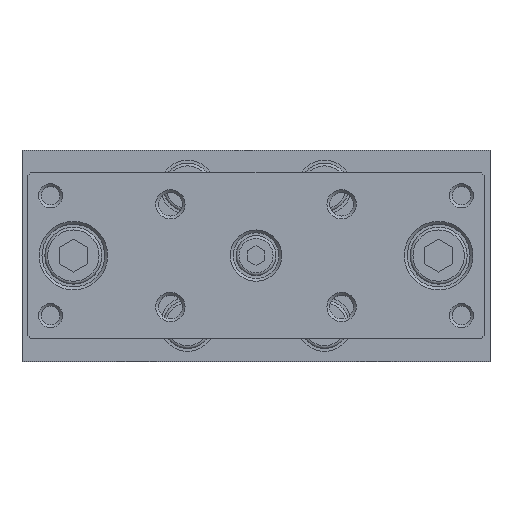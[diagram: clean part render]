
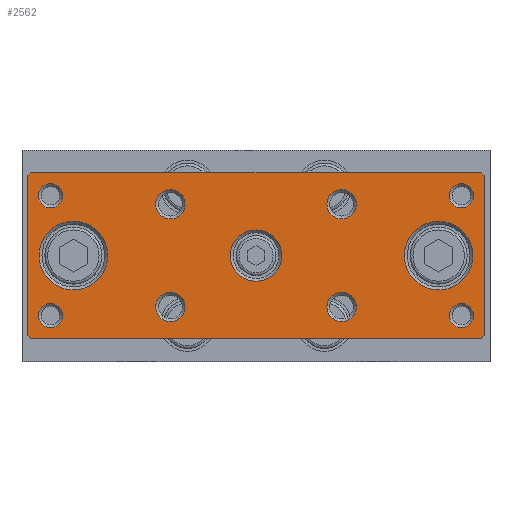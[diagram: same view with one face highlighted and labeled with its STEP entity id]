
A CAD part, top view. The second image highlights one B-rep face of the part: STEP entity #2562.
In plain terms, the highlighted planar face has unit normal (0, 0, 1).
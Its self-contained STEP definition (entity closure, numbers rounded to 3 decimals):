
#2366=CARTESIAN_POINT('',(-12.193,-7.317,129.5));
#2367=VERTEX_POINT('',#2366);
#2368=CARTESIAN_POINT('',(-14.76,-7.317,129.5));
#2369=DIRECTION('',(0.0,0.0,1.0));
#2370=DIRECTION('',(-1.0,0.0,0.0));
#2371=AXIS2_PLACEMENT_3D('',#2368,#2369,#2370);
#2372=CIRCLE('',#2371,2.567);
#2373=EDGE_CURVE('',#2367,#2367,#2372,.T.);
#2378=CARTESIAN_POINT('',(-39.76,1.683,129.5));
#2379=DIRECTION('',(0.0,0.0,1.0));
#2380=DIRECTION('',(1.0,0.0,0.0));
#2381=AXIS2_PLACEMENT_3D('',#2378,#2379,#2380);
#2382=PLANE('',#2381);
#2383=CARTESIAN_POINT('',(-39.76,15.683,129.5));
#2384=VERTEX_POINT('',#2383);
#2385=CARTESIAN_POINT('',(-39.26,16.183,129.5));
#2386=VERTEX_POINT('',#2385);
#2387=CARTESIAN_POINT('',(-39.76,15.683,129.5));
#2388=DIRECTION('',(0.707,0.707,0.0));
#2389=VECTOR('',#2388,0.707);
#2390=LINE('',#2387,#2389);
#2391=EDGE_CURVE('',#2384,#2386,#2390,.T.);
#2392=ORIENTED_EDGE('',*,*,#2391,.F.);
#2393=CARTESIAN_POINT('',(-39.76,-12.317,129.5));
#2394=VERTEX_POINT('',#2393);
#2395=CARTESIAN_POINT('',(-39.76,15.683,129.5));
#2396=DIRECTION('',(0.0,-1.0,0.0));
#2397=VECTOR('',#2396,28.);
#2398=LINE('',#2395,#2397);
#2399=EDGE_CURVE('',#2384,#2394,#2398,.T.);
#2400=ORIENTED_EDGE('',*,*,#2399,.T.);
#2401=CARTESIAN_POINT('',(-39.26,-12.817,129.5));
#2402=VERTEX_POINT('',#2401);
#2403=CARTESIAN_POINT('',(-39.26,-12.817,129.5));
#2404=DIRECTION('',(-0.707,0.707,0.0));
#2405=VECTOR('',#2404,0.707);
#2406=LINE('',#2403,#2405);
#2407=EDGE_CURVE('',#2402,#2394,#2406,.T.);
#2408=ORIENTED_EDGE('',*,*,#2407,.F.);
#2409=CARTESIAN_POINT('',(39.74,-12.817,129.5));
#2410=VERTEX_POINT('',#2409);
#2411=CARTESIAN_POINT('',(-39.26,-12.817,129.5));
#2412=DIRECTION('',(1.0,0.0,0.0));
#2413=VECTOR('',#2412,79.0);
#2414=LINE('',#2411,#2413);
#2415=EDGE_CURVE('',#2402,#2410,#2414,.T.);
#2416=ORIENTED_EDGE('',*,*,#2415,.T.);
#2417=CARTESIAN_POINT('',(40.24,-12.317,129.5));
#2418=VERTEX_POINT('',#2417);
#2419=CARTESIAN_POINT('',(40.24,-12.317,129.5));
#2420=DIRECTION('',(-0.707,-0.707,0.0));
#2421=VECTOR('',#2420,0.707);
#2422=LINE('',#2419,#2421);
#2423=EDGE_CURVE('',#2418,#2410,#2422,.T.);
#2424=ORIENTED_EDGE('',*,*,#2423,.F.);
#2425=CARTESIAN_POINT('',(40.24,15.683,129.5));
#2426=VERTEX_POINT('',#2425);
#2427=CARTESIAN_POINT('',(40.24,-12.317,129.5));
#2428=DIRECTION('',(0.0,1.0,0.0));
#2429=VECTOR('',#2428,28.);
#2430=LINE('',#2427,#2429);
#2431=EDGE_CURVE('',#2418,#2426,#2430,.T.);
#2432=ORIENTED_EDGE('',*,*,#2431,.T.);
#2433=CARTESIAN_POINT('',(39.74,16.183,129.5));
#2434=VERTEX_POINT('',#2433);
#2435=CARTESIAN_POINT('',(39.74,16.183,129.5));
#2436=DIRECTION('',(0.707,-0.707,0.0));
#2437=VECTOR('',#2436,0.707);
#2438=LINE('',#2435,#2437);
#2439=EDGE_CURVE('',#2434,#2426,#2438,.T.);
#2440=ORIENTED_EDGE('',*,*,#2439,.F.);
#2441=CARTESIAN_POINT('',(39.74,16.183,129.5));
#2442=DIRECTION('',(-1.0,0.0,0.0));
#2443=VECTOR('',#2442,79.0);
#2444=LINE('',#2441,#2443);
#2445=EDGE_CURVE('',#2434,#2386,#2444,.T.);
#2446=ORIENTED_EDGE('',*,*,#2445,.T.);
#2447=EDGE_LOOP('',(#2392,#2400,#2408,#2416,#2424,#2432,#2440,#2446));
#2448=FACE_OUTER_BOUND('',#2447,.T.);
#2449=CARTESIAN_POINT('',(17.807,10.683,129.5));
#2450=VERTEX_POINT('',#2449);
#2451=CARTESIAN_POINT('',(15.24,10.683,129.5));
#2452=DIRECTION('',(0.0,0.0,1.0));
#2453=DIRECTION('',(-1.0,0.0,0.0));
#2454=AXIS2_PLACEMENT_3D('',#2451,#2452,#2453);
#2455=CIRCLE('',#2454,2.567);
#2456=EDGE_CURVE('',#2450,#2450,#2455,.T.);
#2457=ORIENTED_EDGE('',*,*,#2456,.F.);
#2458=EDGE_LOOP('',(#2457));
#2459=FACE_BOUND('',#2458,.T.);
#2460=CARTESIAN_POINT('',(-12.193,10.683,129.5));
#2461=VERTEX_POINT('',#2460);
#2462=CARTESIAN_POINT('',(-14.76,10.683,129.5));
#2463=DIRECTION('',(0.0,0.0,1.0));
#2464=DIRECTION('',(-1.0,0.0,0.0));
#2465=AXIS2_PLACEMENT_3D('',#2462,#2463,#2464);
#2466=CIRCLE('',#2465,2.567);
#2467=EDGE_CURVE('',#2461,#2461,#2466,.T.);
#2468=ORIENTED_EDGE('',*,*,#2467,.F.);
#2469=EDGE_LOOP('',(#2468));
#2470=FACE_BOUND('',#2469,.T.);
#2471=CARTESIAN_POINT('',(4.74,1.683,129.5));
#2472=VERTEX_POINT('',#2471);
#2473=CARTESIAN_POINT('',(0.24,1.683,129.5));
#2474=DIRECTION('',(0.0,0.0,1.0));
#2475=DIRECTION('',(-1.0,0.0,0.0));
#2476=AXIS2_PLACEMENT_3D('',#2473,#2474,#2475);
#2477=CIRCLE('',#2476,4.5);
#2478=EDGE_CURVE('',#2472,#2472,#2477,.T.);
#2479=ORIENTED_EDGE('',*,*,#2478,.F.);
#2480=EDGE_LOOP('',(#2479));
#2481=FACE_BOUND('',#2480,.T.);
#2482=CARTESIAN_POINT('',(-25.76,1.683,129.5));
#2483=VERTEX_POINT('',#2482);
#2484=CARTESIAN_POINT('',(-31.76,1.683,129.5));
#2485=DIRECTION('',(0.0,0.0,1.0));
#2486=DIRECTION('',(-1.0,0.0,0.0));
#2487=AXIS2_PLACEMENT_3D('',#2484,#2485,#2486);
#2488=CIRCLE('',#2487,6.);
#2489=EDGE_CURVE('',#2483,#2483,#2488,.T.);
#2490=ORIENTED_EDGE('',*,*,#2489,.F.);
#2491=EDGE_LOOP('',(#2490));
#2492=FACE_BOUND('',#2491,.T.);
#2493=CARTESIAN_POINT('',(38.24,1.683,129.5));
#2494=VERTEX_POINT('',#2493);
#2495=CARTESIAN_POINT('',(32.24,1.683,129.5));
#2496=DIRECTION('',(0.0,0.0,1.0));
#2497=DIRECTION('',(-1.0,0.0,0.0));
#2498=AXIS2_PLACEMENT_3D('',#2495,#2496,#2497);
#2499=CIRCLE('',#2498,6.);
#2500=EDGE_CURVE('',#2494,#2494,#2499,.T.);
#2501=ORIENTED_EDGE('',*,*,#2500,.F.);
#2502=EDGE_LOOP('',(#2501));
#2503=FACE_BOUND('',#2502,.T.);
#2504=CARTESIAN_POINT('',(38.361,-8.817,129.5));
#2505=VERTEX_POINT('',#2504);
#2506=CARTESIAN_POINT('',(36.24,-8.817,129.5));
#2507=DIRECTION('',(0.0,0.0,1.0));
#2508=DIRECTION('',(-1.0,0.0,0.0));
#2509=AXIS2_PLACEMENT_3D('',#2506,#2507,#2508);
#2510=CIRCLE('',#2509,2.121);
#2511=EDGE_CURVE('',#2505,#2505,#2510,.T.);
#2512=ORIENTED_EDGE('',*,*,#2511,.F.);
#2513=EDGE_LOOP('',(#2512));
#2514=FACE_BOUND('',#2513,.T.);
#2515=CARTESIAN_POINT('',(38.361,12.183,129.5));
#2516=VERTEX_POINT('',#2515);
#2517=CARTESIAN_POINT('',(36.24,12.183,129.5));
#2518=DIRECTION('',(0.0,0.0,1.0));
#2519=DIRECTION('',(-1.0,0.0,0.0));
#2520=AXIS2_PLACEMENT_3D('',#2517,#2518,#2519);
#2521=CIRCLE('',#2520,2.121);
#2522=EDGE_CURVE('',#2516,#2516,#2521,.T.);
#2523=ORIENTED_EDGE('',*,*,#2522,.F.);
#2524=EDGE_LOOP('',(#2523));
#2525=FACE_BOUND('',#2524,.T.);
#2526=CARTESIAN_POINT('',(-33.639,-8.817,129.5));
#2527=VERTEX_POINT('',#2526);
#2528=CARTESIAN_POINT('',(-35.76,-8.817,129.5));
#2529=DIRECTION('',(0.0,0.0,1.0));
#2530=DIRECTION('',(-1.0,0.0,0.0));
#2531=AXIS2_PLACEMENT_3D('',#2528,#2529,#2530);
#2532=CIRCLE('',#2531,2.121);
#2533=EDGE_CURVE('',#2527,#2527,#2532,.T.);
#2534=ORIENTED_EDGE('',*,*,#2533,.F.);
#2535=EDGE_LOOP('',(#2534));
#2536=FACE_BOUND('',#2535,.T.);
#2537=CARTESIAN_POINT('',(-33.639,12.183,129.5));
#2538=VERTEX_POINT('',#2537);
#2539=CARTESIAN_POINT('',(-35.76,12.183,129.5));
#2540=DIRECTION('',(0.0,0.0,1.0));
#2541=DIRECTION('',(-1.0,0.0,0.0));
#2542=AXIS2_PLACEMENT_3D('',#2539,#2540,#2541);
#2543=CIRCLE('',#2542,2.121);
#2544=EDGE_CURVE('',#2538,#2538,#2543,.T.);
#2545=ORIENTED_EDGE('',*,*,#2544,.F.);
#2546=EDGE_LOOP('',(#2545));
#2547=FACE_BOUND('',#2546,.T.);
#2548=CARTESIAN_POINT('',(17.807,-7.317,129.5));
#2549=VERTEX_POINT('',#2548);
#2550=CARTESIAN_POINT('',(15.24,-7.317,129.5));
#2551=DIRECTION('',(0.0,0.0,1.0));
#2552=DIRECTION('',(-1.0,0.0,0.0));
#2553=AXIS2_PLACEMENT_3D('',#2550,#2551,#2552);
#2554=CIRCLE('',#2553,2.567);
#2555=EDGE_CURVE('',#2549,#2549,#2554,.T.);
#2556=ORIENTED_EDGE('',*,*,#2555,.F.);
#2557=EDGE_LOOP('',(#2556));
#2558=FACE_BOUND('',#2557,.T.);
#2559=ORIENTED_EDGE('',*,*,#2373,.F.);
#2560=EDGE_LOOP('',(#2559));
#2561=FACE_BOUND('',#2560,.T.);
#2562=ADVANCED_FACE('',(#2448,#2459,#2470,#2481,#2492,#2503,#2514,#2525,#2536,#2547,#2558,#2561),#2382,.T.);
